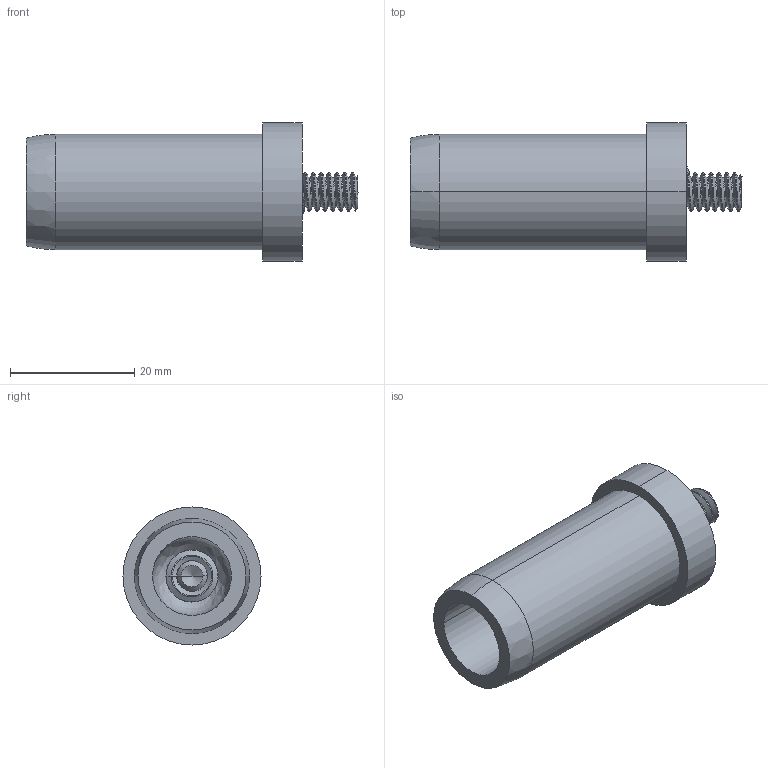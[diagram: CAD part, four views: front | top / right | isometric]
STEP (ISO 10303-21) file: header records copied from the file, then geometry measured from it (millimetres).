
FILE_DESCRIPTION (( 'STEP AP203' ), '1' );
FILE_NAME ('FDPCK-MC.75-S-END-STUD.step', '2019-09-11T18:32:32', ( 'ydmin' ), ( '' ), 'SwSTEP 2.0', 'SolidWorks 2017', '' );
FILE_SCHEMA (( 'CONFIG_CONTROL_DESIGN' ));
Length unit declared in the file: inch
Products named in the file (1): FDPCK-MC.75-S-END-STUD
Bounding box: 53.45 x 22.23 x 22.23 mm (x, y, z)
Volume: 8553.7 mm3; surface area: 6302.4 mm2
Topology: 3 solids, 3 shells, 84 faces, 209 edges, 128 vertices
Faces by surface type: cylinder 36, plane 18, cone 16, bspline 14
Entity records: 8361 total; most frequent: CARTESIAN_POINT 6576, ORIENTED_EDGE 406, DIRECTION 302, EDGE_CURVE 203, VERTEX_POINT 128, AXIS2_PLACEMENT_3D 112, EDGE_LOOP 89, ADVANCED_FACE 84
